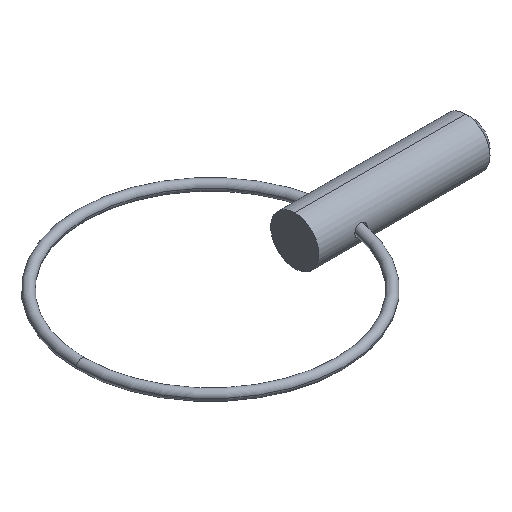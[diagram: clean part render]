
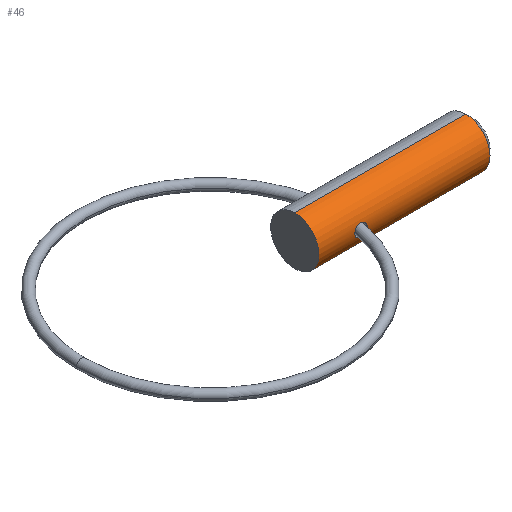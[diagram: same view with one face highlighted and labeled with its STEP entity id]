
A CAD part, isometric view. The second image highlights one B-rep face of the part: STEP entity #46.
In plain terms, the highlighted cylindrical face has radius 2.38 mm (diameter 4.76 mm), a partial arc.
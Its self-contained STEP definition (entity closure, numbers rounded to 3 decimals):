
#15 = CARTESIAN_POINT ( 'NONE',  ( 3.61, -2.362, 0.313 ) ) ;
#17 = DIRECTION ( 'NONE',  ( 0., 0., -1. ) ) ;
#30 = CARTESIAN_POINT ( 'NONE',  ( 4.464, -2.322, -0.536 ) ) ;
#46 = ADVANCED_FACE ( 'NONE', ( #535, #478 ), #157, .T. ) ;
#53 = EDGE_LOOP ( 'NONE', ( #539, #270, #289, #760 ) ) ;
#55 = CIRCLE ( 'NONE', #225, 2.38 ) ;
#61 = CARTESIAN_POINT ( 'NONE',  ( 4.687, -2.362, 0.314 ) ) ;
#77 = CARTESIAN_POINT ( 'NONE',  ( 0., 0., -2.38 ) ) ;
#86 = VERTEX_POINT ( 'NONE', #412 ) ;
#89 = VERTEX_POINT ( 'NONE', #471 ) ;
#90 = AXIS2_PLACEMENT_3D ( 'NONE', #192, #678, #17 ) ;
#126 = CARTESIAN_POINT ( 'NONE',  ( 3.538, -2.38, 0.159 ) ) ;
#132 = CARTESIAN_POINT ( 'NONE',  ( 4.307, -2.304, 0.597 ) ) ;
#157 = CYLINDRICAL_SURFACE ( 'NONE', #316, 2.38 ) ;
#192 = CARTESIAN_POINT ( 'NONE',  ( 16.855, 0., 0. ) ) ;
#208 = CARTESIAN_POINT ( 'NONE',  ( 3.538, -2.38, 0. ) ) ;
#215 = B_SPLINE_CURVE_WITH_KNOTS ( 'NONE', 3,
 ( #468, #410, #272, #30, #580, #639, #216, #282, #485, #208 ),
 .UNSPECIFIED., .F., .F.,
 ( 4, 2, 2, 2, 4 ),
 ( 0.002, 0.003, 0.003, 0.004, 0.004 ),
 .UNSPECIFIED. ) ;
#216 = CARTESIAN_POINT ( 'NONE',  ( 3.836, -2.323, -0.528 ) ) ;
#225 = AXIS2_PLACEMENT_3D ( 'NONE', #691, #493, #560 ) ;
#247 = CARTESIAN_POINT ( 'NONE',  ( 0., 0., 2.38 ) ) ;
#248 = CARTESIAN_POINT ( 'NONE',  ( 3.991, -2.305, 0.592 ) ) ;
#249 = VECTOR ( 'NONE', #688, 1000. ) ;
#258 = EDGE_LOOP ( 'NONE', ( #325, #725 ) ) ;
#270 = ORIENTED_EDGE ( 'NONE', *, *, #672, .T. ) ;
#271 = CARTESIAN_POINT ( 'NONE',  ( 4.75, -2.38, 0. ) ) ;
#272 = CARTESIAN_POINT ( 'NONE',  ( 4.687, -2.362, -0.314 ) ) ;
#281 = DIRECTION ( 'NONE',  ( 1., 0., 0. ) ) ;
#282 = CARTESIAN_POINT ( 'NONE',  ( 3.61, -2.362, -0.312 ) ) ;
#289 = ORIENTED_EDGE ( 'NONE', *, *, #501, .T. ) ;
#296 = B_SPLINE_CURVE_WITH_KNOTS ( 'NONE', 3,
 ( #561, #126, #15, #500, #248, #132, #443, #61, #300, #553 ),
 .UNSPECIFIED., .F., .F.,
 ( 4, 2, 2, 2, 4 ),
 ( 0., 0.001, 0.001, 0.002, 0.002 ),
 .UNSPECIFIED. ) ;
#300 = CARTESIAN_POINT ( 'NONE',  ( 4.75, -2.38, 0.157 ) ) ;
#316 = AXIS2_PLACEMENT_3D ( 'NONE', #408, #281, #590 ) ;
#320 = CIRCLE ( 'NONE', #90, 2.38 ) ;
#325 = ORIENTED_EDGE ( 'NONE', *, *, #453, .T. ) ;
#345 = EDGE_CURVE ( 'NONE', #769, #676, #215, .T. ) ;
#365 = VERTEX_POINT ( 'NONE', #576 ) ;
#371 = CARTESIAN_POINT ( 'NONE',  ( 3.538, -2.38, 0. ) ) ;
#408 = CARTESIAN_POINT ( 'NONE',  ( 0., 0., 0. ) ) ;
#410 = CARTESIAN_POINT ( 'NONE',  ( 4.75, -2.38, -0.157 ) ) ;
#412 = CARTESIAN_POINT ( 'NONE',  ( 0., 0., -2.38 ) ) ;
#439 = VECTOR ( 'NONE', #507, 1000. ) ;
#443 = CARTESIAN_POINT ( 'NONE',  ( 4.465, -2.322, 0.535 ) ) ;
#449 = LINE ( 'NONE', #77, #439 ) ;
#453 = EDGE_CURVE ( 'NONE', #676, #769, #296, .T. ) ;
#468 = CARTESIAN_POINT ( 'NONE',  ( 4.75, -2.38, 0. ) ) ;
#471 = CARTESIAN_POINT ( 'NONE',  ( 16.855, 0., -2.38 ) ) ;
#478 = FACE_BOUND ( 'NONE', #258, .T. ) ;
#485 = CARTESIAN_POINT ( 'NONE',  ( 3.538, -2.38, -0.159 ) ) ;
#491 = VERTEX_POINT ( 'NONE', #629 ) ;
#493 = DIRECTION ( 'NONE',  ( 1., 0., 0. ) ) ;
#500 = CARTESIAN_POINT ( 'NONE',  ( 3.836, -2.323, 0.528 ) ) ;
#501 = EDGE_CURVE ( 'NONE', #86, #89, #449, .T. ) ;
#507 = DIRECTION ( 'NONE',  ( 1., 0., 0. ) ) ;
#526 = EDGE_CURVE ( 'NONE', #491, #89, #320, .T. ) ;
#535 = FACE_OUTER_BOUND ( 'NONE', #53, .T. ) ;
#539 = ORIENTED_EDGE ( 'NONE', *, *, #664, .F. ) ;
#553 = CARTESIAN_POINT ( 'NONE',  ( 4.75, -2.38, 0. ) ) ;
#556 = LINE ( 'NONE', #247, #249 ) ;
#560 = DIRECTION ( 'NONE',  ( 0., 0., -1. ) ) ;
#561 = CARTESIAN_POINT ( 'NONE',  ( 3.538, -2.38, 0. ) ) ;
#576 = CARTESIAN_POINT ( 'NONE',  ( 0., 0., 2.38 ) ) ;
#580 = CARTESIAN_POINT ( 'NONE',  ( 4.307, -2.304, -0.597 ) ) ;
#590 = DIRECTION ( 'NONE',  ( 0., 0., -1. ) ) ;
#629 = CARTESIAN_POINT ( 'NONE',  ( 16.855, 0., 2.38 ) ) ;
#639 = CARTESIAN_POINT ( 'NONE',  ( 3.992, -2.305, -0.592 ) ) ;
#664 = EDGE_CURVE ( 'NONE', #365, #491, #556, .T. ) ;
#672 = EDGE_CURVE ( 'NONE', #365, #86, #55, .T. ) ;
#676 = VERTEX_POINT ( 'NONE', #371 ) ;
#678 = DIRECTION ( 'NONE',  ( 1., 0., 0. ) ) ;
#688 = DIRECTION ( 'NONE',  ( 1., 0., 0. ) ) ;
#691 = CARTESIAN_POINT ( 'NONE',  ( 0., 0., 0. ) ) ;
#725 = ORIENTED_EDGE ( 'NONE', *, *, #345, .T. ) ;
#760 = ORIENTED_EDGE ( 'NONE', *, *, #526, .F. ) ;
#769 = VERTEX_POINT ( 'NONE', #271 ) ;
